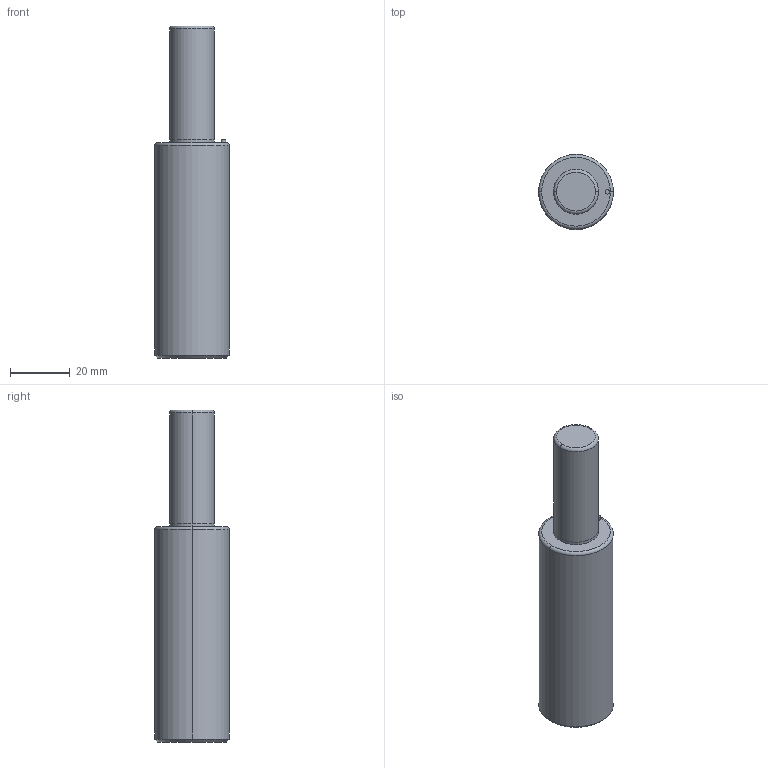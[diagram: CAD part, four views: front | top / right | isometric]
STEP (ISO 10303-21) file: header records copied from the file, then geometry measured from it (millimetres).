
FILE_DESCRIPTION(/* description */ (''),/* implementation_level */ '2;1');
FILE_NAME(/* name */ '3d_mgsc25-38_04564_r00.stp',/* time_stamp */ '2011-01-10T14:13:35+09:00',/* author */ ('MISUMI'),/* organization */ (''),/* preprocessor_version */ 'ST-DEVELOPER v11',/* originating_system */ 'UGS - NX 5.0',/* authorisation */ '');
FILE_SCHEMA (('CONFIG_CONTROL_DESIGN'));
Length unit declared in the file: millimetre
Products named in the file (1): 3d_mgsc25-38_04564_r00
Bounding box: 25 x 25 x 111 mm (x, y, z)
Volume: 41844.6 mm3; surface area: 8588.7 mm2
Topology: 1 solids, 1 shells, 24 faces, 48 edges, 27 vertices
Faces by surface type: cylinder 12, plane 4, torus 4, cone 4
Entity records: 698 total; most frequent: DIRECTION 126, CARTESIAN_POINT 98, ORIENTED_EDGE 92, AXIS2_PLACEMENT_3D 55, EDGE_CURVE 46, CIRCLE 30, EDGE_LOOP 27, VERTEX_POINT 27
